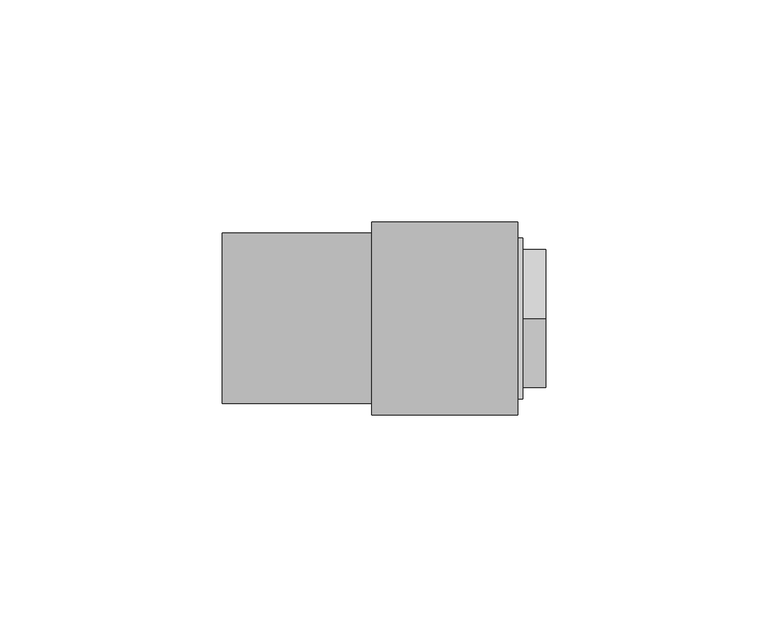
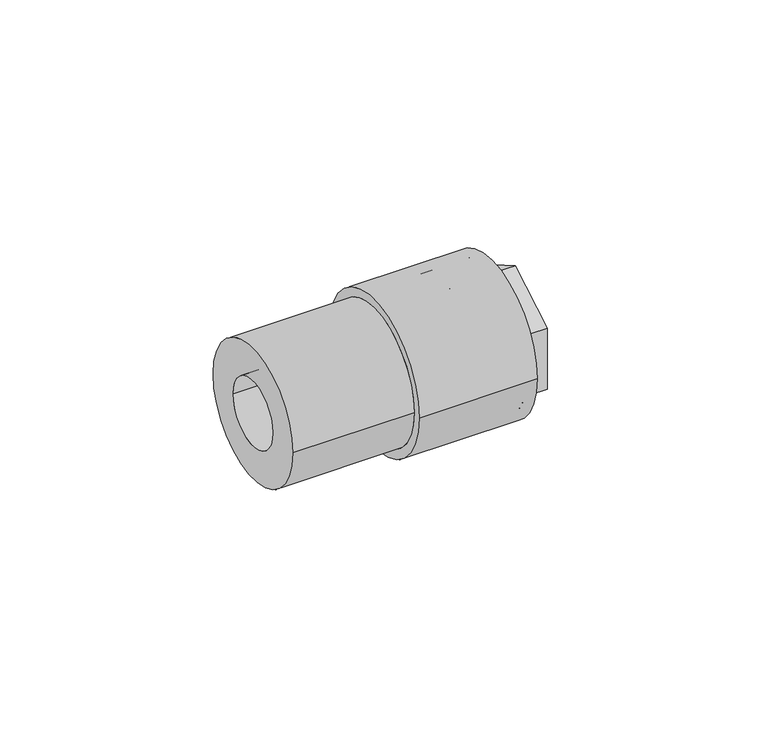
"""IFC4 building model written with IfcOpenShell, lengths in millimetres: pipe fitting geometry, Aquatherm - Fusion Outlet Transition Female : POTABLE BRASS - HEX."""

from ifc_helpers import new_model, si_unit, frame, origin, place, context, project, spatial, polyline, circle_curve, source, transform, mapped, element, save
from ifc_brep_helpers import plane_surface, cylinder_surface, revolved_surface, advanced_brep


def pipe_fitting_cd5caa0c(model_context):
    return source(origin(), model_context, "Body", "AdvancedBrep", [
        advanced_brep(
        [(25.62225, 12.7, 0.0), (25.62225, -12.7, 0.0), (36.5363125, -12.7, 0.0), (36.5363125, 12.7, 0.0), (25.62225, 13.49375, 0.0), (25.62225, -13.49375, 0.0), (22.44725, 13.49375, 0.0), (22.44725, -13.49375, 0.0), (22.44725, 9.525, 0.0), (22.44725, -9.525, 0.0), (19.27225, 9.525, 0.0), (19.27225, -9.525, 0.0), (19.27225, 19.177, 0.0), (19.27225, -19.177, 0.0), (32.766, 19.177, 0.0), (32.766, -19.177, 0.0), (39.116, 13.49375, 0.0), (39.116, -13.49375, 0.0), (39.116, -15.494, 0.0), (39.116, -15.494, -8.9454651), (39.116, 0.0, -17.8909301), (39.116, 15.494, -8.9454651), (39.116, 15.494, 0.0), (39.116, 15.494, 8.9454651), (39.116, 0.0, 17.8909301), (39.116, -15.494, 8.9454651), (32.766, 18.161, 0.0), (32.766, -18.161, 0.0), (33.956625, 18.161, 0.0), (33.956625, -18.161, 0.0), (33.956625, 0.0, -17.8909301), (33.956625, -15.494, -8.9454651), (33.956625, -15.494, 8.9454651), (33.956625, 0.0, 17.8909301), (33.956625, 15.494, 8.9454651), (33.956625, 15.494, -8.9454651)],
        [
            (0, 1, circle_curve(frame((25.62225, 0.0, 0.0), z_axis=(-1.0, 0.0, 0.0), x_axis=(0.0, -1.0, 0.0)), 12.7)),
            (1, 2),
            (2, 3, circle_curve(frame((36.5363125, 0.0, 0.0), z_axis=(1.0, 0.0, 0.0), x_axis=(0.0, -1.0, 0.0)), 12.7)),
            (3, 0),
            (1, 0, circle_curve(frame((25.62225, 0.0, 0.0), z_axis=(-1.0, 0.0, 0.0), x_axis=(0.0, -1.0, 0.0)), 12.7)),
            (3, 2, circle_curve(frame((36.5363125, 0.0, 0.0), z_axis=(1.0, 0.0, 0.0), x_axis=(0.0, -1.0, 0.0)), 12.7)),
            (0, 4),
            (4, 5, circle_curve(frame((25.62225, 0.0, 0.0), z_axis=(-1.0, 0.0, 0.0), x_axis=(0.0, -1.0, 0.0)), 13.49375)),
            (5, 1),
            (5, 4, circle_curve(frame((25.62225, 0.0, 0.0), z_axis=(-1.0, 0.0, 0.0), x_axis=(0.0, -1.0, 0.0)), 13.49375)),
            (4, 6),
            (6, 7, circle_curve(frame((22.44725, 0.0, 0.0), z_axis=(-1.0, 0.0, 0.0), x_axis=(0.0, -1.0, 0.0)), 13.49375)),
            (7, 5),
            (7, 6, circle_curve(frame((22.44725, 0.0, 0.0), z_axis=(-1.0, 0.0, 0.0), x_axis=(0.0, -1.0, 0.0)), 13.49375)),
            (6, 8),
            (8, 9, circle_curve(frame((22.44725, 0.0, 0.0), z_axis=(-1.0, 0.0, 0.0), x_axis=(0.0, -1.0, 0.0)), 9.525)),
            (9, 7),
            (9, 8, circle_curve(frame((22.44725, 0.0, 0.0), z_axis=(-1.0, 0.0, 0.0), x_axis=(0.0, -1.0, 0.0)), 9.525)),
            (8, 10),
            (10, 11, circle_curve(frame((19.27225, 0.0, 0.0), z_axis=(-1.0, 0.0, 0.0), x_axis=(0.0, -1.0, 0.0)), 9.525)),
            (11, 9),
            (11, 10, circle_curve(frame((19.27225, 0.0, 0.0), z_axis=(-1.0, 0.0, 0.0), x_axis=(0.0, -1.0, 0.0)), 9.525)),
            (10, 12),
            (12, 13, circle_curve(frame((19.27225, 0.0, 0.0), z_axis=(-1.0, 0.0, 0.0), x_axis=(0.0, -1.0, 0.0)), 19.177)),
            (13, 11),
            (13, 12, circle_curve(frame((19.27225, 0.0, 0.0), z_axis=(-1.0, 0.0, 0.0), x_axis=(0.0, -1.0, 0.0)), 19.177)),
            (12, 14),
            (14, 15, circle_curve(frame((32.766, 0.0, 0.0), z_axis=(-1.0, 0.0, 0.0), x_axis=(0.0, -1.0, 0.0)), 19.177)),
            (15, 13),
            (15, 14, circle_curve(frame((32.766, 0.0, 0.0), z_axis=(-1.0, 0.0, 0.0), x_axis=(0.0, -1.0, 0.0)), 19.177)),
            (16, 17, circle_curve(frame((39.116, 0.0, 0.0), z_axis=(-1.0, 0.0, 0.0), x_axis=(0.0, -1.0, 0.0)), 13.49375)),
            (17, 18),
            (18, 19),
            (19, 20),
            (20, 21),
            (21, 22),
            (22, 16),
            (17, 16, circle_curve(frame((39.116, 0.0, 0.0), z_axis=(-1.0, 0.0, 0.0), x_axis=(0.0, -1.0, 0.0)), 13.49375)),
            (22, 23),
            (23, 24),
            (24, 25),
            (25, 18),
            (2, 17),
            (16, 3),
            (14, 26),
            (26, 27, circle_curve(frame((32.766, 0.0, 0.0), z_axis=(-1.0, 0.0, 0.0), x_axis=(0.0, -1.0, 0.0)), 18.161)),
            (27, 15),
            (27, 26, circle_curve(frame((32.766, 0.0, 0.0), z_axis=(-1.0, 0.0, 0.0), x_axis=(0.0, -1.0, 0.0)), 18.161)),
            (26, 28),
            (28, 29, circle_curve(frame((33.956625, 0.0, 0.0), z_axis=(-1.0, 0.0, 0.0), x_axis=(0.0, -1.0, 0.0)), 18.161)),
            (29, 27),
            (29, 28, circle_curve(frame((33.956625, 0.0, 0.0), z_axis=(-1.0, 0.0, 0.0), x_axis=(0.0, -1.0, 0.0)), 18.161)),
            (30, 31),
            (31, 32),
            (32, 33),
            (33, 34),
            (34, 35),
            (35, 30),
            (35, 21),
            (20, 30),
            (34, 23),
            (33, 24),
            (32, 25),
            (31, 19),
        ],
        [
            revolved_surface(polyline([(36.5363125, -12.7, 0.0), (25.62225, -12.7, 0.0)]), (40.9492251, 0.0, 0.0), (1.0, 0.0, 0.0)),
            plane_surface(frame((25.62225, 0.0, 0.0), z_axis=(-1.0, 0.0, 0.0), x_axis=(0.0, -1.0, 0.0))),
            revolved_surface(polyline([(25.62225, -13.49375, 0.0), (22.44725, -13.49375, 0.0)]), (40.9492251, 0.0, 0.0), (1.0, 0.0, 0.0)),
            plane_surface(frame((22.44725, 0.0, 0.0), z_axis=(1.0, 0.0, 0.0), x_axis=(0.0, -1.0, 0.0))),
            revolved_surface(polyline([(22.44725, -9.525, 0.0), (19.27225, -9.525, 0.0)]), (40.9492251, 0.0, 0.0), (1.0, 0.0, 0.0)),
            plane_surface(frame((19.27225, 0.0, 0.0), z_axis=(-1.0, 0.0, 0.0), x_axis=(0.0, -1.0, 0.0))),
            cylinder_surface(frame((40.9492251, 0.0, 0.0), z_axis=(1.0, 0.0, 0.0), x_axis=(0.0, -1.0, 0.0)), 19.177),
            plane_surface(frame((39.116, 0.0, 0.0), z_axis=(1.0, 0.0, 0.0), x_axis=(0.0, -1.0, 0.0))),
            revolved_surface(polyline([(39.116, -13.49375, 0.0), (36.5363125, -12.7, 0.0)]), (40.9492251, 0.0, 0.0), (1.0, 0.0, 0.0)),
            plane_surface(frame((32.766, 0.0, 0.0), z_axis=(1.0, 0.0, 0.0), x_axis=(0.0, -1.0, 0.0))),
            cylinder_surface(frame((40.9492251, 0.0, 0.0), z_axis=(1.0, 0.0, 0.0), x_axis=(0.0, -1.0, 0.0)), 18.161),
            plane_surface(frame((33.956625, 15.494, -8.9454651), z_axis=(1.0000000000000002, 0.0, 0.0), x_axis=(0.0, 0.8660254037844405, 0.49999999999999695))),
            plane_surface(frame((33.956625, 0.0, -17.8909301), z_axis=(0.0, 0.49999999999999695, -0.8660254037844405), x_axis=(1.0, 0.0, 0.0))),
            plane_surface(frame((33.956625, 15.494, -8.9454651), z_axis=(0.0, 1.0, 0.0), x_axis=(1.0, 0.0, 0.0))),
            plane_surface(frame((33.956625, 15.494, 8.9454651), z_axis=(0.0, 0.5000000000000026, 0.8660254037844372), x_axis=(1.0, 0.0, 0.0))),
            plane_surface(frame((33.956625, 0.0, 17.8909301), z_axis=(0.0, -0.499999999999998, 0.8660254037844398), x_axis=(1.0, 0.0, 0.0))),
            plane_surface(frame((33.956625, -15.494, 8.9454651), z_axis=(0.0, -1.0, 0.0), x_axis=(1.0, 0.0, 0.0))),
            plane_surface(frame((33.956625, -15.494, -8.9454651), z_axis=(0.0, -0.5000000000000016, -0.8660254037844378), x_axis=(1.0, 0.0, 0.0))),
        ],
        [
            (0, [[1, 2, 3, 4]]),
            (0, [[-2, 5, -4, 6]]),
            (1, [[-1, 7, 8, 9]]),
            (1, [[-5, -9, 10, -7]]),
            (2, [[-8, 11, 12, 13]]),
            (2, [[-10, -13, 14, -11]]),
            (3, [[-12, 15, 16, 17]]),
            (3, [[-14, -17, 18, -15]]),
            (4, [[-16, 19, 20, 21]]),
            (4, [[-18, -21, 22, -19]]),
            (5, [[-20, 23, 24, 25]]),
            (5, [[-22, -25, 26, -23]]),
            (6, [[-24, 27, 28, 29]]),
            (6, [[-26, -29, 30, -27]]),
            (7, [[31, 32, 33, 34, 35, 36, 37]]),
            (7, [[38, -37, 39, 40, 41, 42, -32]]),
            (8, [[-3, 43, -31, 44]]),
            (8, [[-6, -44, -38, -43]]),
            (9, [[-28, 45, 46, 47]]),
            (9, [[-30, -47, 48, -45]]),
            (10, [[-46, 49, 50, 51]]),
            (10, [[-48, -51, 52, -49]]),
            (11, [[-50, -52], [53, 54, 55, 56, 57, 58]]),
            (12, [[-58, 59, -35, 60]]),
            (13, [[-57, 61, -39, -36, -59]]),
            (14, [[-56, 62, -40, -61]]),
            (15, [[-55, 63, -41, -62]]),
            (16, [[-54, 64, -33, -42, -63]]),
            (17, [[-53, -60, -34, -64]]),
        ],
    ),
        advanced_brep(
        [(-33.7064865, 19.177, 0.0), (-33.7064865, -19.177, 0.0), (-33.7064865, 9.525, 0.0), (-33.7064865, -9.525, 0.0), (19.27225, 19.177, 0.0), (19.27225, -19.177, 0.0), (19.27225, 9.525, 0.0), (19.27225, -9.525, 0.0), (0.0, 19.177, 0.0), (0.0, -19.177, 0.0), (32.766, 21.717, 0.0), (32.766, -21.717, 0.0), (32.766, 19.177, 0.0), (32.766, -19.177, 0.0), (0.0, 21.717, 0.0), (0.0, -21.717, 0.0)],
        [
            (0, 1, circle_curve(frame((-33.7064865, 0.0, 0.0), z_axis=(-1.0, 0.0, 0.0), x_axis=(0.0, -1.0, 0.0)), 19.177)),
            (1, 0, circle_curve(frame((-33.7064865, 0.0, 0.0), z_axis=(-1.0, 0.0, 0.0), x_axis=(0.0, -1.0, 0.0)), 19.177)),
            (2, 3, circle_curve(frame((-33.7064865, 0.0, 0.0), z_axis=(1.0, 0.0, 0.0), x_axis=(0.0, -1.0, 0.0)), 9.525)),
            (3, 2, circle_curve(frame((-33.7064865, 0.0, 0.0), z_axis=(1.0, 0.0, 0.0), x_axis=(0.0, -1.0, 0.0)), 9.525)),
            (4, 5, circle_curve(frame((19.27225, 0.0, 0.0), z_axis=(1.0, 0.0, 0.0), x_axis=(0.0, -1.0, 0.0)), 19.177)),
            (5, 4, circle_curve(frame((19.27225, 0.0, 0.0), z_axis=(1.0, 0.0, 0.0), x_axis=(0.0, -1.0, 0.0)), 19.177)),
            (6, 7, circle_curve(frame((19.27225, 0.0, 0.0), z_axis=(-1.0, 0.0, 0.0), x_axis=(0.0, -1.0, 0.0)), 9.525)),
            (7, 6, circle_curve(frame((19.27225, 0.0, 0.0), z_axis=(-1.0, 0.0, 0.0), x_axis=(0.0, -1.0, 0.0)), 9.525)),
            (2, 6),
            (7, 3),
            (0, 8),
            (8, 9, circle_curve(frame((0.0, 0.0, 0.0), z_axis=(-1.0, 0.0, 0.0), x_axis=(0.0, -1.0, 0.0)), 19.177)),
            (9, 1),
            (9, 8, circle_curve(frame((0.0, 0.0, 0.0), z_axis=(-1.0, 0.0, 0.0), x_axis=(0.0, -1.0, 0.0)), 19.177)),
            (10, 11, circle_curve(frame((32.766, 0.0, 0.0), z_axis=(1.0, 0.0, 0.0), x_axis=(0.0, -1.0, 0.0)), 21.717)),
            (11, 10, circle_curve(frame((32.766, 0.0, 0.0), z_axis=(1.0, 0.0, 0.0), x_axis=(0.0, -1.0, 0.0)), 21.717)),
            (12, 13, circle_curve(frame((32.766, 0.0, 0.0), z_axis=(-1.0, 0.0, 0.0), x_axis=(0.0, -1.0, 0.0)), 19.177)),
            (13, 12, circle_curve(frame((32.766, 0.0, 0.0), z_axis=(-1.0, 0.0, 0.0), x_axis=(0.0, -1.0, 0.0)), 19.177)),
            (14, 15, circle_curve(frame((0.0, 0.0, 0.0), z_axis=(-1.0, 0.0, 0.0), x_axis=(0.0, -1.0, 0.0)), 21.717)),
            (15, 14, circle_curve(frame((0.0, 0.0, 0.0), z_axis=(-1.0, 0.0, 0.0), x_axis=(0.0, -1.0, 0.0)), 21.717)),
            (13, 5),
            (4, 12),
            (11, 15),
            (14, 10),
        ],
        [
            plane_surface(frame((-33.7064865, -9.525, 0.0), z_axis=(-1.0, 0.0, 0.0), x_axis=(0.0, 0.0, -1.0))),
            plane_surface(frame((19.27225, -9.525, 0.0), z_axis=(1.0, 0.0, 0.0), x_axis=(0.0, 0.0, 1.0))),
            revolved_surface(polyline([(19.27225, -9.525, 0.0), (-33.7064865, -9.525, 0.0)]), (19.27225, 0.0, 0.0), (1.0, 0.0, 0.0)),
            cylinder_surface(frame((0.0, 0.0, 0.0), z_axis=(-1.0, 0.0, 0.0), x_axis=(0.0, -1.0, 0.0)), 19.177),
            plane_surface(frame((32.766, -19.177, 0.0), z_axis=(1.0, 0.0, 0.0), x_axis=(0.0, 0.0, 1.0))),
            plane_surface(frame((0.0, -19.177, 0.0), z_axis=(-1.0, 0.0, 0.0), x_axis=(0.0, 0.0, -1.0))),
            revolved_surface(polyline([(32.766, -19.177, 0.0), (19.27225, -19.177, 0.0)]), (32.766, 0.0, 0.0), (1.0, 0.0, 0.0)),
            cylinder_surface(frame((0.0, 0.0, 0.0), z_axis=(-1.0, 0.0, 0.0), x_axis=(0.0, -1.0, 0.0)), 21.717),
        ],
        [
            (0, [[1, 2], [3, 4]]),
            (1, [[5, 6], [7, 8]]),
            (2, [[-3, 9, -8, 10]]),
            (2, [[-4, -10, -7, -9]]),
            (3, [[-1, 11, 12, 13]]),
            (3, [[-2, -13, 14, -11]]),
            (4, [[15, 16], [17, 18]]),
            (5, [[19, 20], [-12, -14]]),
            (6, [[-18, 21, -5, 22]]),
            (6, [[-17, -22, -6, -21]]),
            (7, [[-16, 23, -19, 24]]),
            (7, [[-15, -24, -20, -23]]),
        ],
    ),
    ])


if __name__ == "__main__":
    model = new_model("IFC4")
    model_context = context("Model", 3, world=origin())
    ifc_project = project(units=[si_unit("LENGTHUNIT", "METRE", prefix="MILLI")], contexts=[model_context])
    site = spatial("IfcSite", under=ifc_project)
    building = spatial("IfcBuilding", under=site)
    placement = place(None, origin())
    pipe_fitting_shape = pipe_fitting_cd5caa0c(model_context)
    element("IfcPipeFitting", 1, ObjectType="Aquatherm - Fusion Outlet Transition Female : POTABLE BRASS - HEX", at=placement, inside=building, context=model_context, shape_type="MappedRepresentation", body=[
        mapped(pipe_fitting_shape, transform((0.0, 0.0, 0.0), x_axis=(1.0, 0.0, 0.0), y_axis=(0.0, 1.0, 0.0), z_axis=(0.0, 0.0, 1.0))),
    ])
    save(model, "model.ifc")
